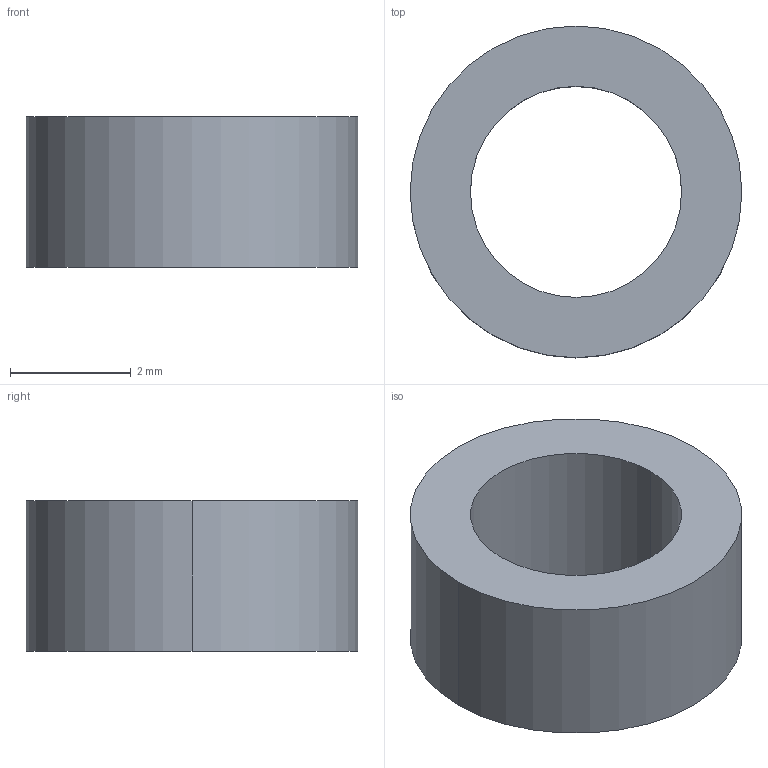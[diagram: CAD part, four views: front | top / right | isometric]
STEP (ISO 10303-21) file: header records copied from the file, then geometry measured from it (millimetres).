
FILE_DESCRIPTION (( 'STEP AP214' ), '1' );
FILE_NAME ('Øàéáà ýêðàíà.STEP', '2021-11-10T11:28:19', ( 'j03075@gmail.com' ), ( '' ), 'SwSTEP 2.0', 'SolidWorks 2021', '' );
FILE_SCHEMA (( 'AUTOMOTIVE_DESIGN' ));
Length unit declared in the file: millimetre
Products named in the file (1): Øàéáà ýêðàíà
Bounding box: 5.5 x 5.5 x 2.5 mm (x, y, z)
Volume: 35.3 mm3; surface area: 99 mm2
Topology: 1 solids, 1 shells, 6 faces, 12 edges, 8 vertices
Faces by surface type: cylinder 4, plane 2
Entity records: 202 total; most frequent: DIRECTION 34, CARTESIAN_POINT 27, ORIENTED_EDGE 24, AXIS2_PLACEMENT_3D 15, EDGE_CURVE 12, VERTEX_POINT 8, CIRCLE 8, EDGE_LOOP 8
